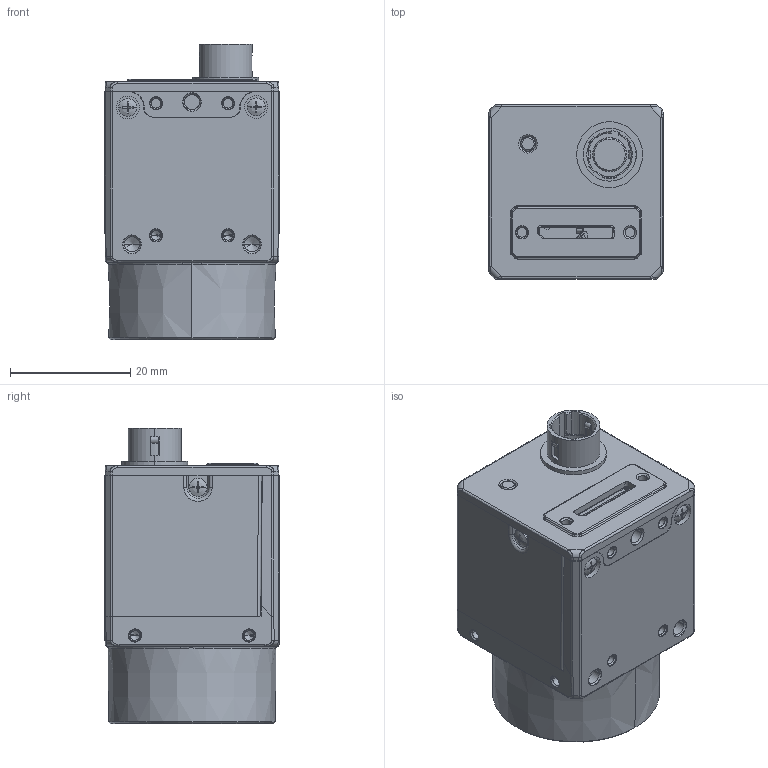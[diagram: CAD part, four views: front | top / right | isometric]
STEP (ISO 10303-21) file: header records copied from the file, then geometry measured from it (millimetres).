
FILE_DESCRIPTION((''),'2;1');
FILE_NAME('CS_U0','2026-08-07T15:09:31',('sunli10'),(''),'CREO PARAMETRIC BY PTC INC, 2020044','CREO PARAMETRIC BY PTC INC, 2020044','');
FILE_SCHEMA(('CONFIG_CONTROL_DESIGN'));
Products named in the file (1): CS_U0
Bounding box: 29.03 x 29 x 49.17 mm (x, y, z)
Surface area: 15402.5 mm2
Topology: 8 solids, 51 shells, 1915 faces, 5409 edges, 3460 vertices
Faces by surface type: plane 986, cylinder 689, cone 113, bspline 59, torus 54, sphere 10, extrusion 4
Entity records: 71245 total; most frequent: CARTESIAN_POINT 21804, ORIENTED_EDGE 10532, DIRECTION 10138, EDGE_CURVE 5353, AXIS2_PLACEMENT_3D 3479, VERTEX_POINT 3459, VECTOR 3180, LINE 3176
